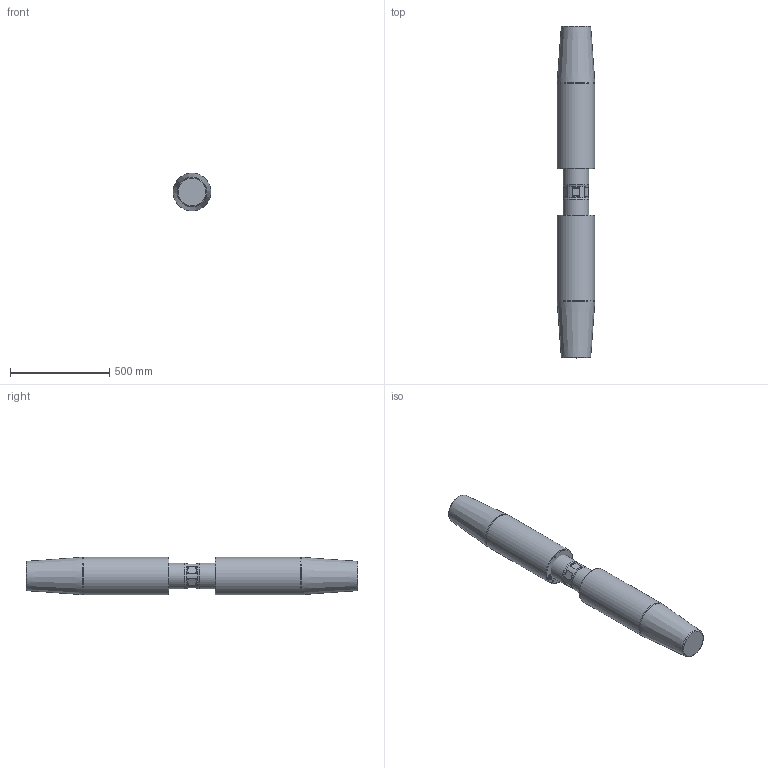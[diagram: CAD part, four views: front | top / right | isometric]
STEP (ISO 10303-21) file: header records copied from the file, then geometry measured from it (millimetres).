
FILE_DESCRIPTION(/* description */ (''),/* implementation_level */ '2;1');
FILE_NAME(/* name */ 'D:\Clienti\Redaelli (inventor)\CYA\STEP\Arrangement\CYA064 52 061 2.stp',/* time_stamp */ '2021-05-09T10:20:11+02:00',/* author */ ('fabri'),/* organization */ (''),/* preprocessor_version */ 'ST-DEVELOPER v16.13',/* originating_system */ 'Autodesk Inventor 2018',/* authorisation */ '');
FILE_SCHEMA (('AUTOMOTIVE_DESIGN { 1 0 10303 214 3 1 1 }'));
Length unit declared in the file: millimetre
Products named in the file (4): CYA012-54-062-0; TBF012-12-012-1; TBF012-13-012-0; TBF012-13-012-0_1
Assembly tree (3 placements, depth 2):
  CYA012-54-062-0
    TBF012-12-012-1
    TBF012-13-012-0
    TBF012-13-012-0_1
Bounding box: 189.87 x 1670 x 189.87 mm (x, y, z)
Volume: 47570580.4 mm3; surface area: 1254195.9 mm2
Topology: 3 solids, 3 shells, 508 faces, 1353 edges, 900 vertices
Faces by surface type: bspline 249, plane 216, cylinder 25, cone 14, torus 4
Full cylindrical faces by diameter (mm): 8.376 x6, 10.106 x2, 126 x1, 130 x2, 190 x2
Entity records: 17287 total; most frequent: CARTESIAN_POINT 6396, ORIENTED_EDGE 2628, DIRECTION 1366, EDGE_CURVE 1314, VERTEX_POINT 892, LINE 754, VECTOR 754, EDGE_LOOP 588
